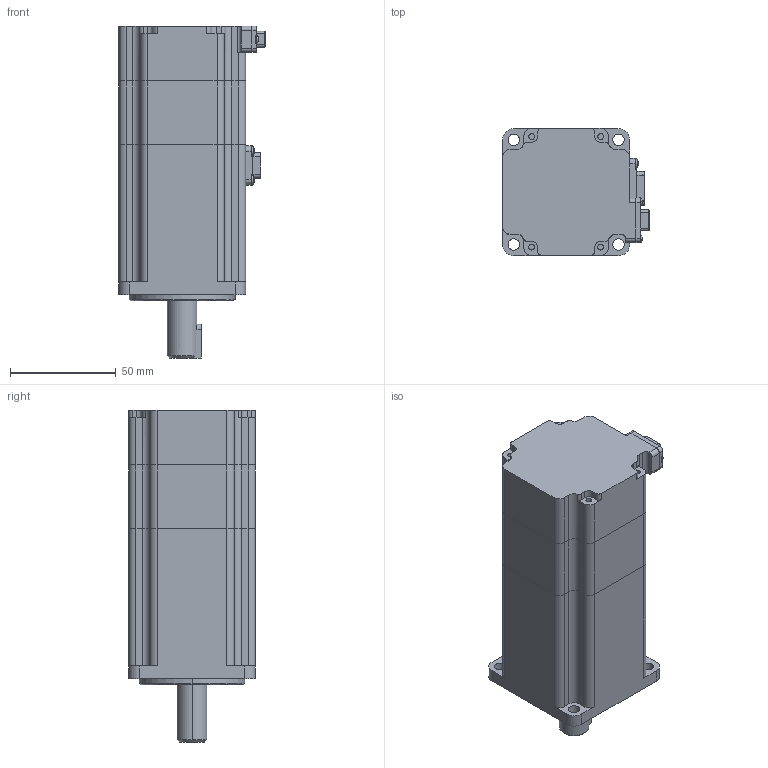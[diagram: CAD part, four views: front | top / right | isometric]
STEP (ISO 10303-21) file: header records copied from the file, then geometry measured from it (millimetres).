
FILE_DESCRIPTION (( 'STEP AP203' ), '1' );
FILE_NAME ('軞蚾.STEP', '2023-03-21T06:20:47', ( '' ), ( '' ), 'SwSTEP 2.0', 'SolidWorks 2022', '' );
FILE_SCHEMA (( 'CONFIG_CONTROL_DESIGN' ));
Length unit declared in the file: millimetre
Products named in the file (8): 10109050085-刹车罩-60L50-毛塑-V1.0; 10211020349小功率编码器7芯插座(sc-mc7p-a82g-00); 总装; 动力底座sc-mc6p-ae2g; 键; 刹车（未取号）码盘罩（60L26（开模标品））v1.0; cross recessed pan head screws gb_GB_CROSS_SCREWS_TYPE1 M2X5-5  H type-N; 一体机壳
Assembly tree (10 placements, depth 2):
  总装
    一体机壳
    10109050085-刹车罩-60L50-毛塑-V1.0
    键
    刹车（未取号）码盘罩（60L26（开模标品））v1.0
    10211020349小功率编码器7芯插座(sc-mc7p-a82g-00)
    动力底座sc-mc6p-ae2g
    cross recessed pan head screws gb_GB_CROSS_SCREWS_TYPE1 M2X5-5  H type-N  x4
Bounding box: 69.3 x 60 x 157.1 mm (x, y, z)
Volume: 413320.9 mm3; surface area: 60056.5 mm2
Topology: 12 solids, 12 shells, 1608 faces, 4283 edges, 2751 vertices
Faces by surface type: plane 933, cylinder 530, cone 59, torus 56, bspline 22, sphere 8
Entity records: 54255 total; most frequent: CARTESIAN_POINT 15254, ORIENTED_EDGE 8094, DIRECTION 7726, EDGE_CURVE 4047, VERTEX_POINT 2619, VECTOR 2578, LINE 2578, AXIS2_PLACEMENT_3D 2574
